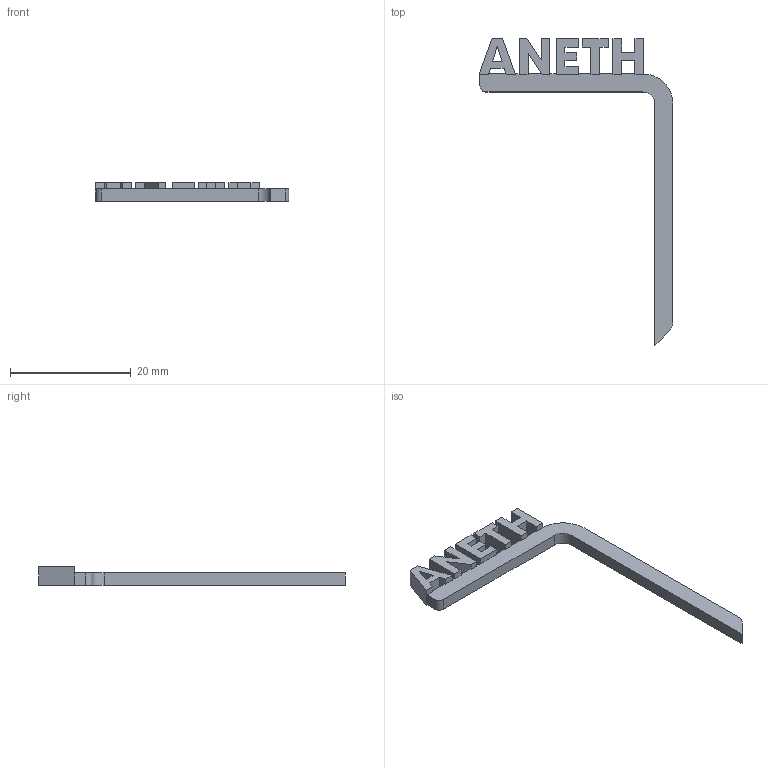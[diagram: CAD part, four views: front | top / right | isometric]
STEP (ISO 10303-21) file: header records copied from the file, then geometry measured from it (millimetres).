
FILE_DESCRIPTION(('STEP AP214'),'1');
FILE_NAME('Aneth.stp','2025-04-24T13:32:00',(' '),(' '),'Spatial InterOp 3D',' ',' ');
FILE_SCHEMA(('AUTOMOTIVE_DESIGN { 1 0 10303 214 1 1 1 1 }'));
Length unit declared in the file: millimetre
Products named in the file (1): Aneth
Bounding box: 32.16 x 50.84 x 3 mm (x, y, z)
Volume: 696.2 mm3; surface area: 1266.4 mm2
Topology: 1 solids, 1 shells, 76 faces, 231 edges, 154 vertices
Faces by surface type: plane 72, cylinder 4
Entity records: 3201 total; most frequent: CARTESIAN_POINT 462, ORIENTED_EDGE 462, DIRECTION 393, EDGE_CURVE 231, LINE 223, VECTOR 223, VERTEX_POINT 154, AXIS2_PLACEMENT_3D 85
